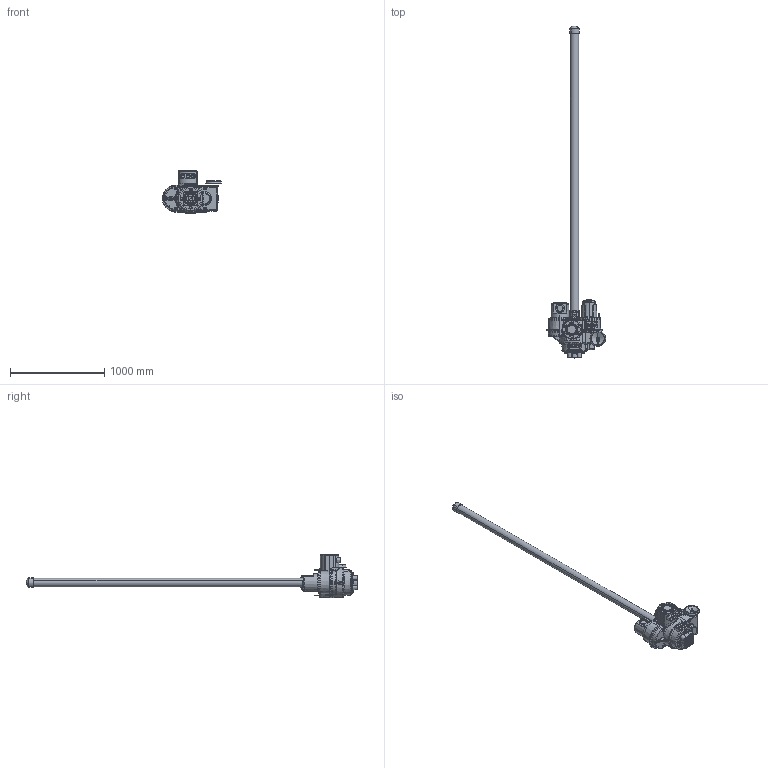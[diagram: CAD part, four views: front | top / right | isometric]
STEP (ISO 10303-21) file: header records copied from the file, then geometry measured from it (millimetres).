
FILE_DESCRIPTION (( 'STEP AP214' ), '1' );
FILE_NAME ('88-200 W THRUST MODULE.STEP', '2021-08-09T13:36:23', ( '' ), ( '' ), 'SwSTEP 2.0', 'SolidWorks 2015', '' );
FILE_SCHEMA (( 'AUTOMOTIVE_DESIGN' ));
Length unit declared in the file: inch
Products named in the file (1): 88-200 W THRUST MODULE
Bounding box: 626.22 x 3514.02 x 462.1 mm (x, y, z)
Surface area: 2288572.9 mm2 (no closed solid volume)
Topology: 0 solids, 199 shells, 1171 faces, 8883 edges, 7758 vertices
Faces by surface type: plane 309, cylinder 246, torus 224, bspline 199, cone 167, sphere 26
Entity records: 142774 total; most frequent: CARTESIAN_POINT 68935, ORIENTED_EDGE 10585, DIRECTION 9972, EDGE_CURVE 8872, VERTEX_POINT 7757, LINE 3482, VECTOR 3482, AXIS2_PLACEMENT_3D 3245
